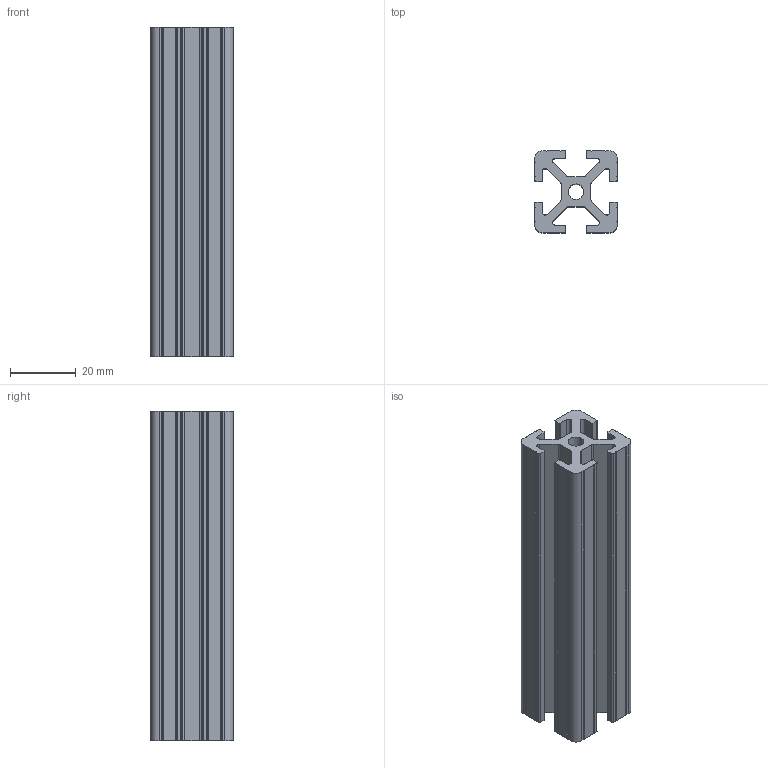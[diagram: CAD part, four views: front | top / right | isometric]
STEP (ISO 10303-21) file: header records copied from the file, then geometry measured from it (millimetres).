
FILE_DESCRIPTION (( 'STEP AP203' ), '1' );
FILE_NAME ('LIMA-2525-6.STEP', '2018-03-28T03:35:29', ( '' ), ( '' ), 'SwSTEP 2.0', 'SolidWorks 2013', '' );
FILE_SCHEMA (( 'CONFIG_CONTROL_DESIGN' ));
Length unit declared in the file: millimetre
Products named in the file (1): LIMA-2525-6
Bounding box: 25 x 25 x 100 mm (x, y, z)
Volume: 30181.9 mm3; surface area: 21894 mm2
Topology: 1 solids, 1 shells, 126 faces, 372 edges, 248 vertices
Faces by surface type: plane 86, cylinder 40
Entity records: 4279 total; most frequent: CARTESIAN_POINT 747, ORIENTED_EDGE 744, DIRECTION 706, EDGE_CURVE 372, LINE 292, VECTOR 292, VERTEX_POINT 248, AXIS2_PLACEMENT_3D 207
